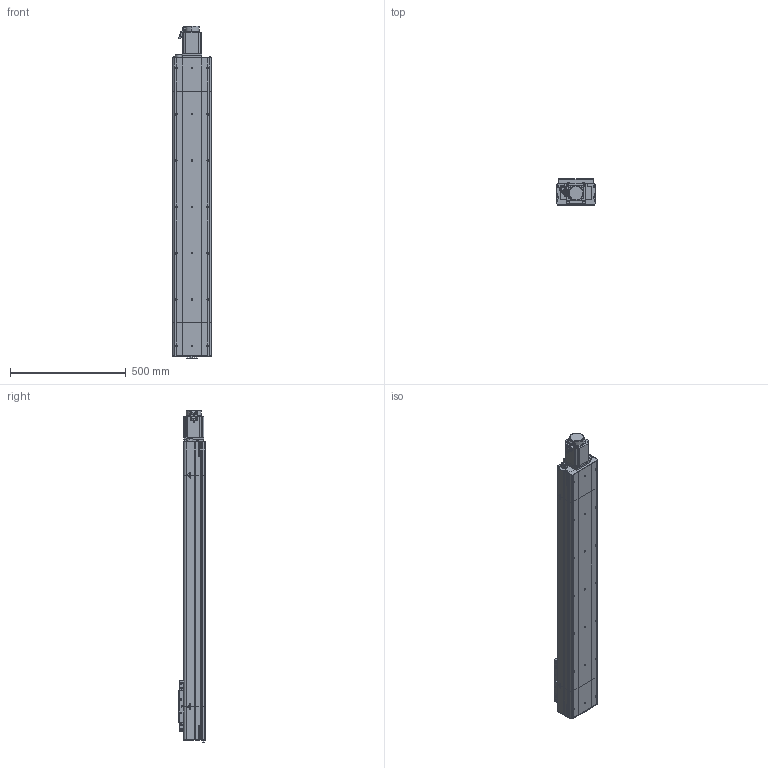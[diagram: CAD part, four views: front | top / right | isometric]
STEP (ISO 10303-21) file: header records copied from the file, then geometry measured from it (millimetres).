
FILE_DESCRIPTION (( 'STEP AP214' ), '1' );
FILE_NAME ('D17 CSH MD S1000.STEP', '2010-06-29T14:25:27', ( 'Christophe Gaillard' ), ( 'SGA' ), 'SwSTEP 2.0', 'SolidWorks 2010', '' );
FILE_SCHEMA (( 'AUTOMOTIVE_DESIGN' ));
Length unit declared in the file: millimetre
Products named in the file (25): plaque de serrage D17 head_Default; chariot D17_Default; avant 90BLDC100A-640; Moteur motionking 90BLDC100A-640; corps 90BLDC100A-640; Corp L1000_Default; Plaque de bout D17_Default; support chariot D17_Default; couvercle D17-1000_Default; Corp D17 S1000_Default; Corp Tail D17_Default; Tail D17_Default; Conecteur2_Default; codeur 90BLDC100-640; couvercle D17_Default; Conecteur_Default; Chariot D17_Default; glissiere_Default; plaque de serrage D17_Default; vis M5 L15_Default; Plaque de bout D17 head_Default; Head D17 MD_Default; D17 CSH MD S1000; Corp Head D17 MD_Default; couvercle D17 head_Default
Assembly tree (44 placements, depth 4):
  D17 CSH MD S1000
    Chariot D17_Default
      vis M5 L15_Default  x8
      support chariot D17_Default
      glissiere_Default
      chariot D17_Default
    Tail D17_Default
      vis M5 L15_Default  x6
      Plaque de bout D17_Default
      plaque de serrage D17_Default
      couvercle D17_Default
      Corp Tail D17_Default
    Head D17 MD_Default
      vis M5 L15_Default  x7
      plaque de serrage D17 head_Default
      Plaque de bout D17 head_Default
      Corp Head D17 MD_Default
      Moteur motionking 90BLDC100A-640
        avant 90BLDC100A-640
        codeur 90BLDC100-640
        Conecteur_Default
        corps 90BLDC100A-640
        Conecteur2_Default
      couvercle D17 head_Default
    Corp D17 S1000_Default
      couvercle D17-1000_Default
      Corp L1000_Default
Bounding box: 172 x 114 x 1433 mm (x, y, z)
Volume: 9259099.5 mm3; surface area: 1635718.5 mm2
Topology: 81 solids, 81 shells, 2985 faces, 7574 edges, 4968 vertices
Faces by surface type: plane 1808, bspline 710, cylinder 372, torus 53, cone 42
Entity records: 144007 total; most frequent: CARTESIAN_POINT 78469, ORIENTED_EDGE 13144, DIRECTION 9366, EDGE_CURVE 6572, VECTOR 4468, LINE 4468, VERTEX_POINT 4368, EDGE_LOOP 2766
